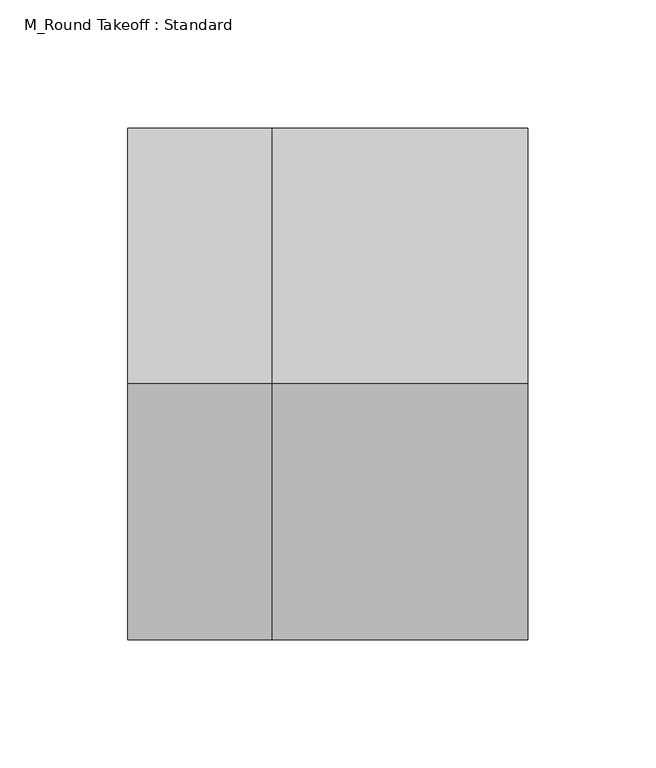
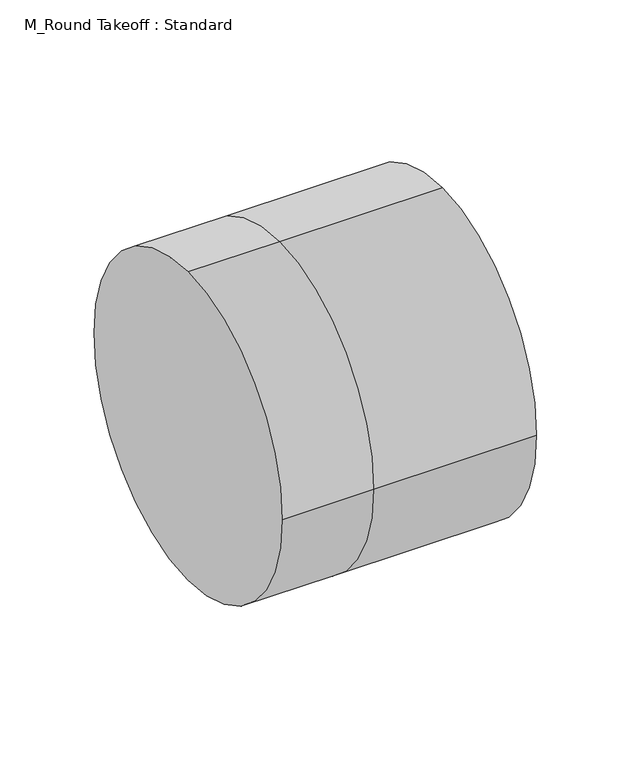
"""IFC4 building model written with IfcOpenShell, lengths in millimetres: duct fitting geometry, M_Round Takeoff : Standard."""

from ifc_helpers import new_model, si_unit, frame, origin, place, context, project, spatial, circle_curve, source, transform, mapped, element, save
from ifc_brep_helpers import plane_surface, cylinder_surface, advanced_brep


def m_round_takeoff_standard_2adb3d06(model_context):
    return source(origin(), model_context, "Body", "AdvancedBrep", [
        advanced_brep(
        [(-56.096, 0.0, 100.0), (-56.096, 100.0, 0.0), (-56.096, 0.0, -100.0), (-56.096, -100.0, 0.0), (0.0, -100.0, 0.0), (0.0, 0.0, 100.0), (0.0, 0.0, -100.0), (0.0, 100.0, 0.0), (100.0, 0.0, 100.0), (100.0, -100.0, 0.0), (100.0, 0.0, -100.0), (100.0, 100.0, 0.0)],
        [
            (0, 1, circle_curve(frame((-56.096, 0.0, 0.0), z_axis=(-1.0, 0.0, 0.0), x_axis=(0.0, -1.0, 0.0)), 100.0)),
            (1, 2, circle_curve(frame((-56.096, 0.0, 0.0), z_axis=(-1.0, 0.0, 0.0), x_axis=(0.0, -1.0, 0.0)), 100.0)),
            (2, 3, circle_curve(frame((-56.096, 0.0, 0.0), z_axis=(-1.0, 0.0, 0.0), x_axis=(0.0, -1.0, 0.0)), 100.0)),
            (3, 0, circle_curve(frame((-56.096, 0.0, 0.0), z_axis=(-1.0, 0.0, 0.0), x_axis=(0.0, -1.0, 0.0)), 100.0)),
            (3, 4),
            (4, 5, circle_curve(frame((0.0, 0.0, 0.0), z_axis=(-1.0, 0.0, 0.0), x_axis=(0.0, -1.0, 0.0)), 100.0)),
            (5, 0),
            (2, 6),
            (6, 4, circle_curve(frame((0.0, 0.0, 0.0), z_axis=(-1.0, 0.0, 0.0), x_axis=(0.0, -1.0, 0.0)), 100.0)),
            (1, 7),
            (7, 6, circle_curve(frame((0.0, 0.0, 0.0), z_axis=(-1.0, 0.0, 0.0), x_axis=(0.0, -1.0, 0.0)), 100.0)),
            (5, 7, circle_curve(frame((0.0, 0.0, 0.0), z_axis=(-1.0, 0.0, 0.0), x_axis=(0.0, -1.0, 0.0)), 100.0)),
            (8, 9, circle_curve(frame((100.0, 0.0, 0.0), z_axis=(1.0, 0.0, 0.0), x_axis=(0.0, -1.0, 0.0)), 100.0)),
            (9, 10, circle_curve(frame((100.0, 0.0, 0.0), z_axis=(1.0, 0.0, 0.0), x_axis=(0.0, -1.0, 0.0)), 100.0)),
            (10, 11, circle_curve(frame((100.0, 0.0, 0.0), z_axis=(1.0, 0.0, 0.0), x_axis=(0.0, -1.0, 0.0)), 100.0)),
            (11, 8, circle_curve(frame((100.0, 0.0, 0.0), z_axis=(1.0, 0.0, 0.0), x_axis=(0.0, -1.0, 0.0)), 100.0)),
            (8, 5),
            (4, 9),
            (6, 10),
            (7, 11),
        ],
        [
            plane_surface(frame((-56.096, 0.0, 0.0), z_axis=(-1.0, 0.0, 0.0), x_axis=(0.0, 0.0, 1.0))),
            cylinder_surface(frame((-56.096, 0.0, 0.0), z_axis=(-1.0, 0.0, 0.0), x_axis=(0.0, -1.0, 0.0)), 100.0),
            plane_surface(frame((100.0, 0.0, 0.0), z_axis=(1.0, 0.0, 0.0), x_axis=(0.0, 0.0, 1.0))),
            cylinder_surface(frame((0.0, 0.0, 0.0), z_axis=(-1.0, 0.0, 0.0), x_axis=(0.0, -1.0, 0.0)), 100.0),
        ],
        [
            (0, [[1, 2, 3, 4]]),
            (1, [[5, 6, 7, -4]]),
            (1, [[8, 9, -5, -3]]),
            (1, [[10, 11, -8, -2]]),
            (1, [[-7, 12, -10, -1]]),
            (2, [[13, 14, 15, 16]]),
            (3, [[17, -6, 18, -13]]),
            (3, [[-18, -9, 19, -14]]),
            (3, [[-19, -11, 20, -15]]),
            (3, [[-20, -12, -17, -16]]),
        ],
    ),
        advanced_brep(
        [(100.0, 0.0, 100.0), (100.0, -100.0, 0.0), (100.0, 0.0, -100.0), (100.0, 100.0, 0.0), (0.0, 0.0, 100.0), (0.0, -100.0, 0.0), (0.0, 0.0, -100.0), (0.0, 100.0, 0.0), (-56.096, 0.0, 100.0), (-56.096, 100.0, 0.0), (-56.096, 0.0, -100.0), (-56.096, -100.0, 0.0)],
        [
            (0, 1, circle_curve(frame((100.0, 0.0, 0.0), z_axis=(1.0, 0.0, 0.0), x_axis=(0.0, -1.0, 0.0)), 100.0)),
            (1, 2, circle_curve(frame((100.0, 0.0, 0.0), z_axis=(1.0, 0.0, 0.0), x_axis=(0.0, -1.0, 0.0)), 100.0)),
            (2, 3, circle_curve(frame((100.0, 0.0, 0.0), z_axis=(1.0, 0.0, 0.0), x_axis=(0.0, -1.0, 0.0)), 100.0)),
            (3, 0, circle_curve(frame((100.0, 0.0, 0.0), z_axis=(1.0, 0.0, 0.0), x_axis=(0.0, -1.0, 0.0)), 100.0)),
            (0, 4),
            (4, 5, circle_curve(frame((0.0, 0.0, 0.0), z_axis=(1.0, 0.0, 0.0), x_axis=(0.0, -1.0, 0.0)), 100.0)),
            (5, 1),
            (5, 6, circle_curve(frame((0.0, 0.0, 0.0), z_axis=(1.0, 0.0, 0.0), x_axis=(0.0, -1.0, 0.0)), 100.0)),
            (6, 2),
            (6, 7, circle_curve(frame((0.0, 0.0, 0.0), z_axis=(1.0, 0.0, 0.0), x_axis=(0.0, -1.0, 0.0)), 100.0)),
            (7, 3),
            (7, 4, circle_curve(frame((0.0, 0.0, 0.0), z_axis=(1.0, 0.0, 0.0), x_axis=(0.0, -1.0, 0.0)), 100.0)),
            (8, 9, circle_curve(frame((-56.096, 0.0, 0.0), z_axis=(-1.0, 0.0, 0.0), x_axis=(0.0, -1.0, 0.0)), 100.0)),
            (9, 10, circle_curve(frame((-56.096, 0.0, 0.0), z_axis=(-1.0, 0.0, 0.0), x_axis=(0.0, -1.0, 0.0)), 100.0)),
            (10, 11, circle_curve(frame((-56.096, 0.0, 0.0), z_axis=(-1.0, 0.0, 0.0), x_axis=(0.0, -1.0, 0.0)), 100.0)),
            (11, 8, circle_curve(frame((-56.096, 0.0, 0.0), z_axis=(-1.0, 0.0, 0.0), x_axis=(0.0, -1.0, 0.0)), 100.0)),
            (11, 5),
            (4, 8),
            (10, 6),
            (9, 7),
        ],
        [
            plane_surface(frame((100.0, 0.0, 0.0), z_axis=(1.0, 0.0, 0.0), x_axis=(0.0, 0.0, 1.0))),
            cylinder_surface(frame((0.0, 0.0, 0.0), z_axis=(-1.0, 0.0, 0.0), x_axis=(0.0, -1.0, 0.0)), 100.0),
            plane_surface(frame((-56.096, 0.0, 0.0), z_axis=(-1.0, 0.0, 0.0), x_axis=(0.0, 0.0, 1.0))),
            cylinder_surface(frame((-56.096, 0.0, 0.0), z_axis=(-1.0, 0.0, 0.0), x_axis=(0.0, -1.0, 0.0)), 100.0),
        ],
        [
            (0, [[1, 2, 3, 4]]),
            (1, [[5, 6, 7, -1]]),
            (1, [[-7, 8, 9, -2]]),
            (1, [[-9, 10, 11, -3]]),
            (1, [[-11, 12, -5, -4]]),
            (2, [[13, 14, 15, 16]]),
            (3, [[17, -6, 18, -16]]),
            (3, [[19, -8, -17, -15]]),
            (3, [[20, -10, -19, -14]]),
            (3, [[-18, -12, -20, -13]]),
        ],
    ),
        advanced_brep(
        [(-56.096, 0.0, 100.0), (-56.096, 100.0, 0.0), (-56.096, 0.0, -100.0), (-56.096, -100.0, 0.0), (0.0, -100.0, 0.0), (0.0, 0.0, 100.0), (0.0, 0.0, -100.0), (0.0, 100.0, 0.0), (100.0, 0.0, 100.0), (100.0, -100.0, 0.0), (100.0, 0.0, -100.0), (100.0, 100.0, 0.0)],
        [
            (0, 1, circle_curve(frame((-56.096, 0.0, 0.0), z_axis=(-1.0, 0.0, 0.0), x_axis=(0.0, -1.0, 0.0)), 100.0)),
            (1, 2, circle_curve(frame((-56.096, 0.0, 0.0), z_axis=(-1.0, 0.0, 0.0), x_axis=(0.0, -1.0, 0.0)), 100.0)),
            (2, 3, circle_curve(frame((-56.096, 0.0, 0.0), z_axis=(-1.0, 0.0, 0.0), x_axis=(0.0, -1.0, 0.0)), 100.0)),
            (3, 0, circle_curve(frame((-56.096, 0.0, 0.0), z_axis=(-1.0, 0.0, 0.0), x_axis=(0.0, -1.0, 0.0)), 100.0)),
            (3, 4),
            (4, 5, circle_curve(frame((0.0, 0.0, 0.0), z_axis=(-1.0, 0.0, 0.0), x_axis=(0.0, -1.0, 0.0)), 100.0)),
            (5, 0),
            (2, 6),
            (6, 4, circle_curve(frame((0.0, 0.0, 0.0), z_axis=(-1.0, 0.0, 0.0), x_axis=(0.0, -1.0, 0.0)), 100.0)),
            (1, 7),
            (7, 6, circle_curve(frame((0.0, 0.0, 0.0), z_axis=(-1.0, 0.0, 0.0), x_axis=(0.0, -1.0, 0.0)), 100.0)),
            (5, 7, circle_curve(frame((0.0, 0.0, 0.0), z_axis=(-1.0, 0.0, 0.0), x_axis=(0.0, -1.0, 0.0)), 100.0)),
            (8, 9, circle_curve(frame((100.0, 0.0, 0.0), z_axis=(1.0, 0.0, 0.0), x_axis=(0.0, -1.0, 0.0)), 100.0)),
            (9, 10, circle_curve(frame((100.0, 0.0, 0.0), z_axis=(1.0, 0.0, 0.0), x_axis=(0.0, -1.0, 0.0)), 100.0)),
            (10, 11, circle_curve(frame((100.0, 0.0, 0.0), z_axis=(1.0, 0.0, 0.0), x_axis=(0.0, -1.0, 0.0)), 100.0)),
            (11, 8, circle_curve(frame((100.0, 0.0, 0.0), z_axis=(1.0, 0.0, 0.0), x_axis=(0.0, -1.0, 0.0)), 100.0)),
            (8, 5),
            (4, 9),
            (6, 10),
            (7, 11),
        ],
        [
            plane_surface(frame((-56.096, 0.0, 0.0), z_axis=(-1.0, 0.0, 0.0), x_axis=(0.0, 0.0, 1.0))),
            cylinder_surface(frame((-56.096, 0.0, 0.0), z_axis=(-1.0, 0.0, 0.0), x_axis=(0.0, -1.0, 0.0)), 100.0),
            plane_surface(frame((100.0, 0.0, 0.0), z_axis=(1.0, 0.0, 0.0), x_axis=(0.0, 0.0, 1.0))),
            cylinder_surface(frame((0.0, 0.0, 0.0), z_axis=(-1.0, 0.0, 0.0), x_axis=(0.0, -1.0, 0.0)), 100.0),
        ],
        [
            (0, [[1, 2, 3, 4]]),
            (1, [[5, 6, 7, -4]]),
            (1, [[8, 9, -5, -3]]),
            (1, [[10, 11, -8, -2]]),
            (1, [[-7, 12, -10, -1]]),
            (2, [[13, 14, 15, 16]]),
            (3, [[17, -6, 18, -13]]),
            (3, [[-18, -9, 19, -14]]),
            (3, [[-19, -11, 20, -15]]),
            (3, [[-20, -12, -17, -16]]),
        ],
    ),
    ])


if __name__ == "__main__":
    model = new_model("IFC4")
    model_context = context("Model", 3, world=origin())
    ifc_project = project(units=[si_unit("LENGTHUNIT", "METRE", prefix="MILLI")], contexts=[model_context])
    site = spatial("IfcSite", under=ifc_project)
    building = spatial("IfcBuilding", under=site)
    placement = place(None, origin())
    m_round_takeoff_standard_shape = m_round_takeoff_standard_2adb3d06(model_context)
    element("IfcDuctFitting", 1, ObjectType="M_Round Takeoff : Standard", at=placement, inside=building, context=model_context, shape_type="MappedRepresentation", body=[
        mapped(m_round_takeoff_standard_shape, transform((0.0, 0.0, 0.0), x_axis=(1.0, 0.0, 0.0), y_axis=(0.0, 1.0, 0.0), z_axis=(0.0, 0.0, 1.0))),
    ])
    save(model, "model.ifc")
